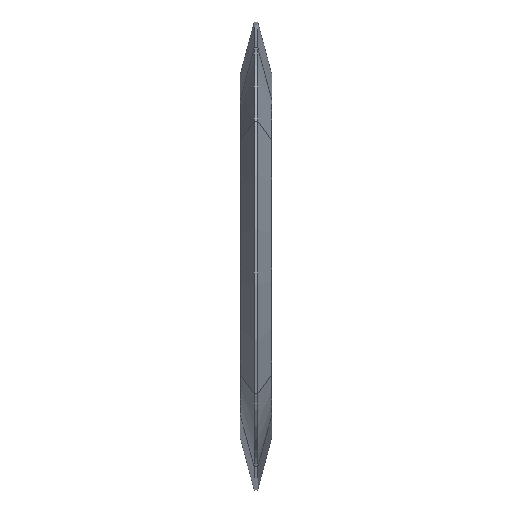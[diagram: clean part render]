
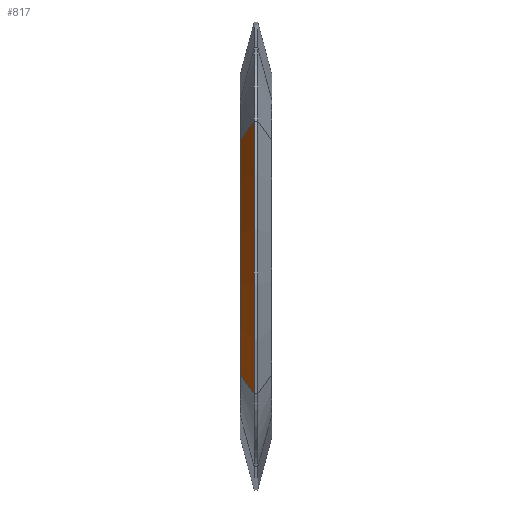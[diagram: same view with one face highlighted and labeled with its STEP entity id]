
A CAD part, left-side view. The second image highlights one B-rep face of the part: STEP entity #817.
In plain terms, the highlighted conical face has half-angle 75 degrees and reference radius 210.45 mm.
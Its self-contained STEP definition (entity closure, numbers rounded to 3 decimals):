
#24 = DIRECTION ( 'NONE',  ( -0.9, -0.259, 0.352 ) ) ;
#69 = CARTESIAN_POINT ( 'NONE',  ( -199.55, 10., 0. ) ) ;
#127 = CARTESIAN_POINT ( 'NONE',  ( -395.531, 10., -76.685 ) ) ;
#160 = EDGE_CURVE ( 'NONE', #1683, #1558, #1150, .T. ) ;
#185 = CARTESIAN_POINT ( 'NONE',  ( -367.727, 18., 65.806 ) ) ;
#224 = EDGE_CURVE ( 'NONE', #267, #875, #259, .T. ) ;
#237 = DIRECTION ( 'NONE',  ( 0., 0., 1. ) ) ;
#240 = DIRECTION ( 'NONE',  ( 0., 1., 0. ) ) ;
#259 = CIRCLE ( 'NONE', #962, 180.594 ) ;
#260 = DIRECTION ( 'NONE',  ( -0.9, -0.259, -0.352 ) ) ;
#267 = VERTEX_POINT ( 'NONE', #1601 ) ;
#360 = CARTESIAN_POINT ( 'NONE',  ( -199.55, 10., 0. ) ) ;
#361 = CARTESIAN_POINT ( 'NONE',  ( -199.55, 18., 0. ) ) ;
#425 = DIRECTION ( 'NONE',  ( 0., 0., 1. ) ) ;
#444 = CARTESIAN_POINT ( 'NONE',  ( -395.531, 10., 76.685 ) ) ;
#572 = AXIS2_PLACEMENT_3D ( 'NONE', #360, #1402, #237 ) ;
#603 = LINE ( 'NONE', #1086, #1175 ) ;
#640 = CONICAL_SURFACE ( 'NONE', #1377, 210.45, 1.309 ) ;
#662 = VECTOR ( 'NONE', #24, 1000. ) ;
#732 = ORIENTED_EDGE ( 'NONE', *, *, #224, .F. ) ;
#784 = ORIENTED_EDGE ( 'NONE', *, *, #1479, .F. ) ;
#817 = ADVANCED_FACE ( 'NONE', ( #1800 ), #640, .T. ) ;
#852 = EDGE_CURVE ( 'NONE', #267, #1558, #603, .T. ) ;
#875 = VERTEX_POINT ( 'NONE', #185 ) ;
#906 = DIRECTION ( 'NONE',  ( 0., 0., -1. ) ) ;
#962 = AXIS2_PLACEMENT_3D ( 'NONE', #361, #240, #425 ) ;
#1009 = ORIENTED_EDGE ( 'NONE', *, *, #852, .T. ) ;
#1086 = CARTESIAN_POINT ( 'NONE',  ( -367.727, 18., -65.806 ) ) ;
#1150 = CIRCLE ( 'NONE', #572, 210.45 ) ;
#1175 = VECTOR ( 'NONE', #260, 1000. ) ;
#1292 = DIRECTION ( 'NONE',  ( 0., -1., 0. ) ) ;
#1321 = LINE ( 'NONE', #1435, #662 ) ;
#1377 = AXIS2_PLACEMENT_3D ( 'NONE', #69, #1292, #906 ) ;
#1402 = DIRECTION ( 'NONE',  ( 0., -1., 0. ) ) ;
#1435 = CARTESIAN_POINT ( 'NONE',  ( -367.727, 18., 65.806 ) ) ;
#1479 = EDGE_CURVE ( 'NONE', #875, #1683, #1321, .T. ) ;
#1558 = VERTEX_POINT ( 'NONE', #127 ) ;
#1601 = CARTESIAN_POINT ( 'NONE',  ( -367.727, 18., -65.806 ) ) ;
#1678 = EDGE_LOOP ( 'NONE', ( #1009, #1742, #784, #732 ) ) ;
#1683 = VERTEX_POINT ( 'NONE', #444 ) ;
#1742 = ORIENTED_EDGE ( 'NONE', *, *, #160, .F. ) ;
#1800 = FACE_OUTER_BOUND ( 'NONE', #1678, .T. ) ;
